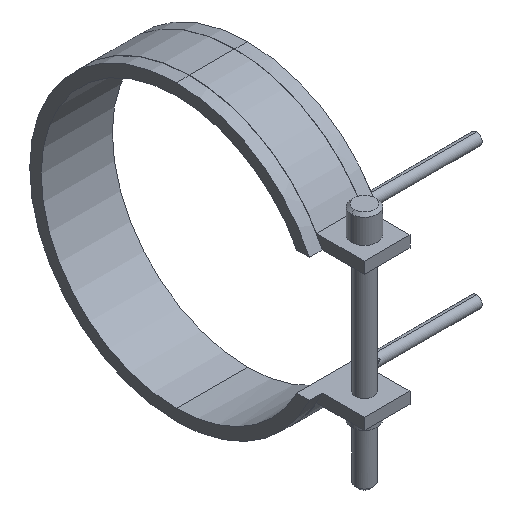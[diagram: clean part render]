
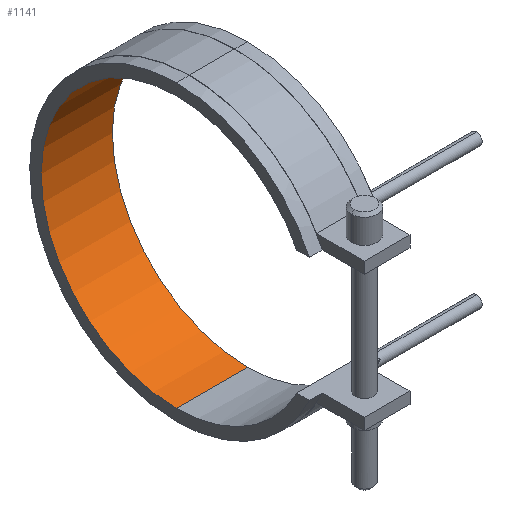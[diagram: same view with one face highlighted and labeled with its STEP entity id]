
A CAD part, isometric view. The second image highlights one B-rep face of the part: STEP entity #1141.
In plain terms, the highlighted cylindrical face has radius 47.5 mm (diameter 95 mm), a partial arc.
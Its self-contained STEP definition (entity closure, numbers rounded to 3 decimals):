
#822=CARTESIAN_POINT('Vertex',(-12.5,0.,-47.5)) ;
#829=CARTESIAN_POINT('Vertex',(12.5,0.,-47.5)) ;
#832=CARTESIAN_POINT('Line Origine',(12.5,0.,-47.5)) ;
#850=CARTESIAN_POINT('Axis2P3D Location',(-12.5,0.,0.)) ;
#854=CARTESIAN_POINT('Vertex',(-12.5,0.,47.5)) ;
#911=CARTESIAN_POINT('Vertex',(12.5,0.,47.5)) ;
#921=CARTESIAN_POINT('Line Origine',(12.5,0.,47.5)) ;
#1012=CARTESIAN_POINT('Axis2P3D Location',(12.5,0.,0.)) ;
#1130=CARTESIAN_POINT('Axis2P3D Location',(12.5,0.,0.)) ;
#833=DIRECTION('Vector Direction',(1.,0.,0.)) ;
#851=DIRECTION('Axis2P3D Direction',(1.,0.,0.)) ;
#922=DIRECTION('Vector Direction',(1.,0.,0.)) ;
#1013=DIRECTION('Axis2P3D Direction',(1.,0.,0.)) ;
#1131=DIRECTION('Axis2P3D Direction',(1.,0.,-0.)) ;
#1132=DIRECTION('Axis2P3D XDirection',(0.,0.,-1.)) ;
#852=AXIS2_PLACEMENT_3D('Circle Axis2P3D',#850,#851,$) ;
#1014=AXIS2_PLACEMENT_3D('Circle Axis2P3D',#1012,#1013,$) ;
#1133=AXIS2_PLACEMENT_3D('Cylinder Axis2P3D',#1130,#1131,#1132) ;
#1136=ORIENTED_EDGE('',*,*,#1016,.T.) ;
#1137=ORIENTED_EDGE('',*,*,#925,.T.) ;
#1138=ORIENTED_EDGE('',*,*,#856,.F.) ;
#1139=ORIENTED_EDGE('',*,*,#836,.T.) ;
#834=VECTOR('Line Direction',#833,1.) ;
#923=VECTOR('Line Direction',#922,1.) ;
#1141=ADVANCED_FACE('14095025',(#1140),#1134,.F.) ;
#853=CIRCLE('generated circle',#852,47.5) ;
#1015=CIRCLE('generated circle',#1014,47.5) ;
#1134=CYLINDRICAL_SURFACE('generated cylinder',#1133,47.5) ;
#836=EDGE_CURVE('',#823,#830,#835,.T.) ;
#856=EDGE_CURVE('',#823,#855,#853,.T.) ;
#925=EDGE_CURVE('',#912,#855,#924,.F.) ;
#1016=EDGE_CURVE('',#830,#912,#1015,.T.) ;
#1135=EDGE_LOOP('',(#1136,#1137,#1138,#1139)) ;
#1140=FACE_OUTER_BOUND('',#1135,.T.) ;
#835=LINE('Line',#832,#834) ;
#924=LINE('Line',#921,#923) ;
#823=VERTEX_POINT('',#822) ;
#830=VERTEX_POINT('',#829) ;
#855=VERTEX_POINT('',#854) ;
#912=VERTEX_POINT('',#911) ;
